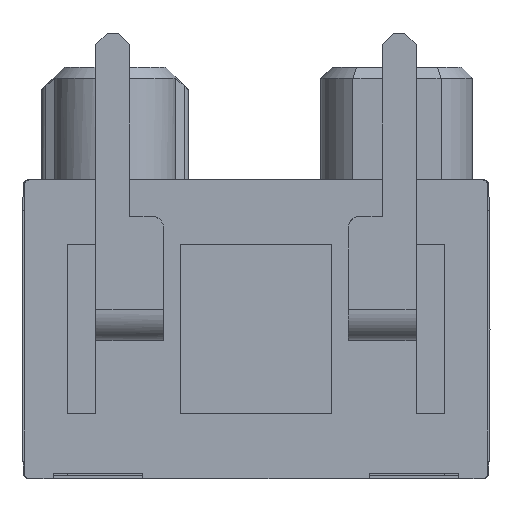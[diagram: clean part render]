
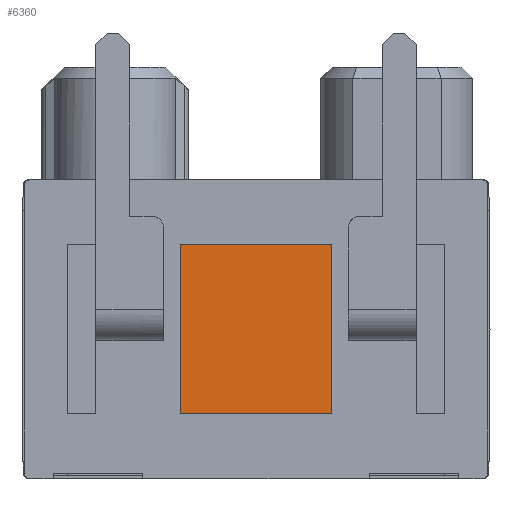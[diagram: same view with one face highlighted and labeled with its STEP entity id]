
A CAD part, front view. The second image highlights one B-rep face of the part: STEP entity #6360.
In plain terms, the highlighted planar face has unit normal (0, -1, 0).
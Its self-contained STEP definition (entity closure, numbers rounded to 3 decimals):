
#222 = EDGE_CURVE ( 'NONE', #8050, #5779, #5071, .T. ) ;
#486 = AXIS2_PLACEMENT_3D ( 'NONE', #2251, #4808, #10672 ) ;
#559 = CARTESIAN_POINT ( 'NONE',  ( 1.34, 0., 1.5 ) ) ;
#1291 = ORIENTED_EDGE ( 'NONE', *, *, #4410, .T. ) ;
#1370 = ORIENTED_EDGE ( 'NONE', *, *, #7014, .T. ) ;
#1684 = VERTEX_POINT ( 'NONE', #2076 ) ;
#2024 = CARTESIAN_POINT ( 'NONE',  ( -1.34, 0., 1.5 ) ) ;
#2076 = CARTESIAN_POINT ( 'NONE',  ( -1.34, 0., -1.5 ) ) ;
#2176 = VERTEX_POINT ( 'NONE', #3566 ) ;
#2251 = CARTESIAN_POINT ( 'NONE',  ( -1.34, 0., 1.5 ) ) ;
#3088 = DIRECTION ( 'NONE',  ( 0., 0., 1. ) ) ;
#3462 = EDGE_CURVE ( 'NONE', #5779, #1684, #10648, .T. ) ;
#3566 = CARTESIAN_POINT ( 'NONE',  ( 1.34, 0., -1.5 ) ) ;
#4306 = LINE ( 'NONE', #10124, #8708 ) ;
#4410 = EDGE_CURVE ( 'NONE', #2176, #8050, #7894, .T. ) ;
#4772 = PLANE ( 'NONE',  #486 ) ;
#4808 = DIRECTION ( 'NONE',  ( 0., -1., 0. ) ) ;
#5042 = CARTESIAN_POINT ( 'NONE',  ( 1.34, 0., 1.5 ) ) ;
#5071 = LINE ( 'NONE', #5042, #9232 ) ;
#5779 = VERTEX_POINT ( 'NONE', #2024 ) ;
#5975 = VECTOR ( 'NONE', #3088, 1000. ) ;
#6360 = ADVANCED_FACE ( 'NONE', ( #9399 ), #4772, .T. ) ;
#6449 = VECTOR ( 'NONE', #9961, 1000. ) ;
#7014 = EDGE_CURVE ( 'NONE', #1684, #2176, #4306, .T. ) ;
#7521 = DIRECTION ( 'NONE',  ( 1., 0., 0. ) ) ;
#7739 = EDGE_LOOP ( 'NONE', ( #1291, #9110, #8252, #1370 ) ) ;
#7894 = LINE ( 'NONE', #8938, #5975 ) ;
#8050 = VERTEX_POINT ( 'NONE', #559 ) ;
#8252 = ORIENTED_EDGE ( 'NONE', *, *, #3462, .T. ) ;
#8647 = DIRECTION ( 'NONE',  ( -1., 0., 0. ) ) ;
#8708 = VECTOR ( 'NONE', #7521, 1000. ) ;
#8938 = CARTESIAN_POINT ( 'NONE',  ( 1.34, 0., -1.5 ) ) ;
#9110 = ORIENTED_EDGE ( 'NONE', *, *, #222, .T. ) ;
#9126 = CARTESIAN_POINT ( 'NONE',  ( -1.34, 0., -1.5 ) ) ;
#9232 = VECTOR ( 'NONE', #8647, 1000. ) ;
#9399 = FACE_OUTER_BOUND ( 'NONE', #7739, .T. ) ;
#9961 = DIRECTION ( 'NONE',  ( 0., 0., -1. ) ) ;
#10124 = CARTESIAN_POINT ( 'NONE',  ( -1.34, 0., -1.5 ) ) ;
#10648 = LINE ( 'NONE', #9126, #6449 ) ;
#10672 = DIRECTION ( 'NONE',  ( 0., 0., -1. ) ) ;
